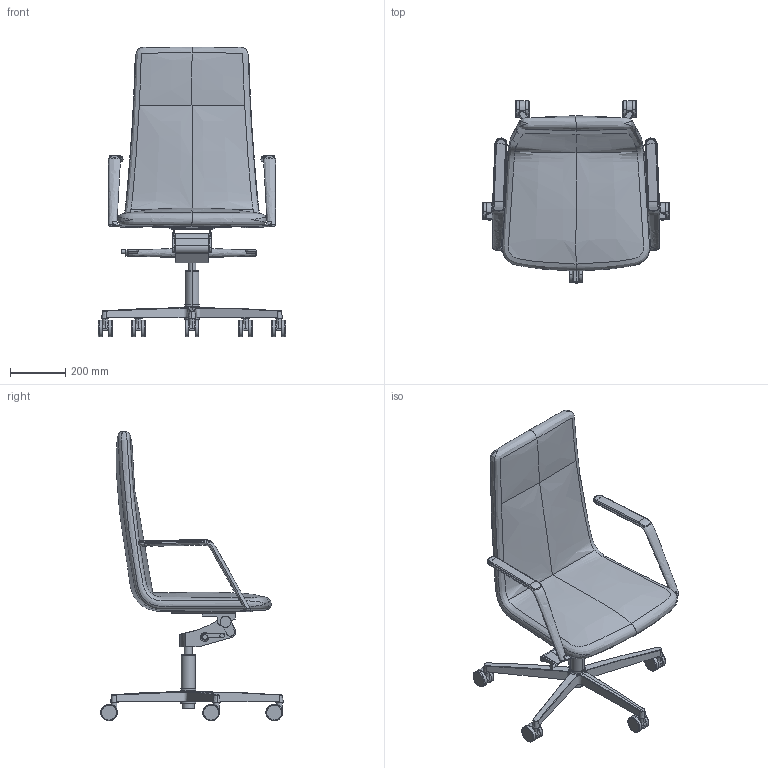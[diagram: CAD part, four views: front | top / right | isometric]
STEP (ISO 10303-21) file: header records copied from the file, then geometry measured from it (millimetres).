
FILE_DESCRIPTION(/* description */ (''),/* implementation_level */ '2;1');
FILE_NAME(/* name */ 'HARMON~3',/* time_stamp */ '2016-07-26T15:16:02+02:00',/* author */ (''),/* organization */ (''),/* preprocessor_version */ 'ST-DEVELOPER v15',/* originating_system */ '',/* authorisation */ '');
FILE_SCHEMA (('CONFIG_CONTROL_DESIGN'));
Length unit declared in the file: millimetre
Products named in the file (1): Document
Bounding box: 677.7 x 659.51 x 1046.92 mm (x, y, z)
Volume: 2104050.3 mm3; surface area: 1790255.1 mm2
Topology: 12 solids, 43 shells, 347 faces, 812 edges, 517 vertices
Faces by surface type: bspline 263, plane 84
Entity records: 22235 total; most frequent: CARTESIAN_POINT 17664, ORIENTED_EDGE 1503, EDGE_CURVE 805, VERTEX_POINT 511, EDGE_LOOP 351, ADVANCED_FACE 347, FACE_OUTER_BOUND 347, B_SPLINE_CURVE_WITH_KNOTS 221
